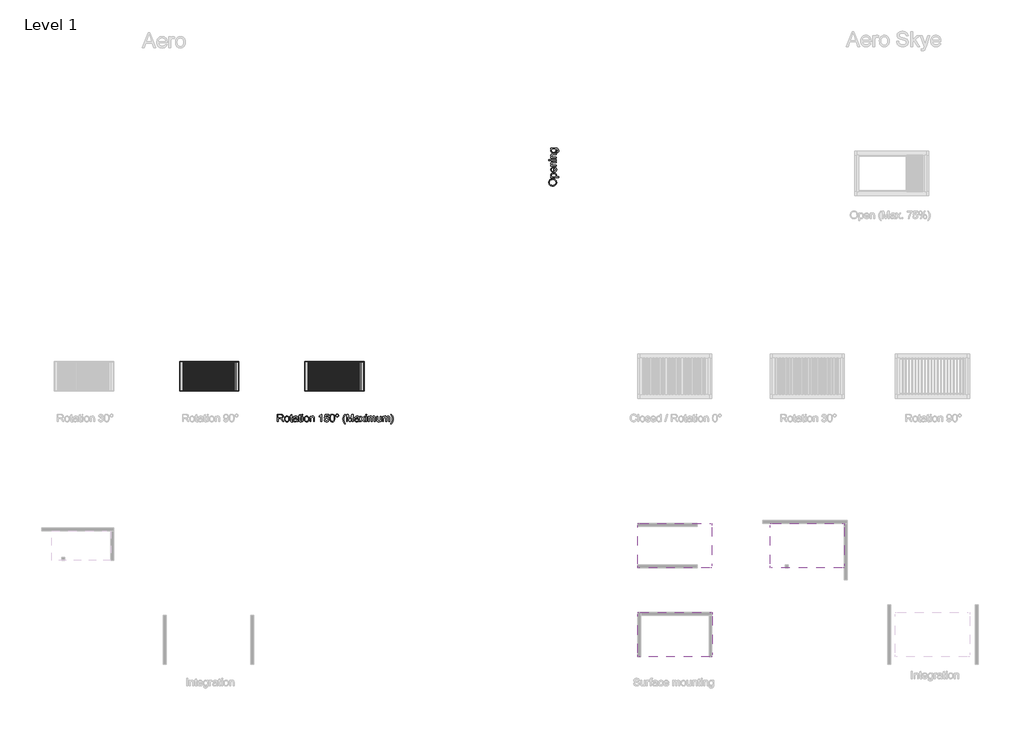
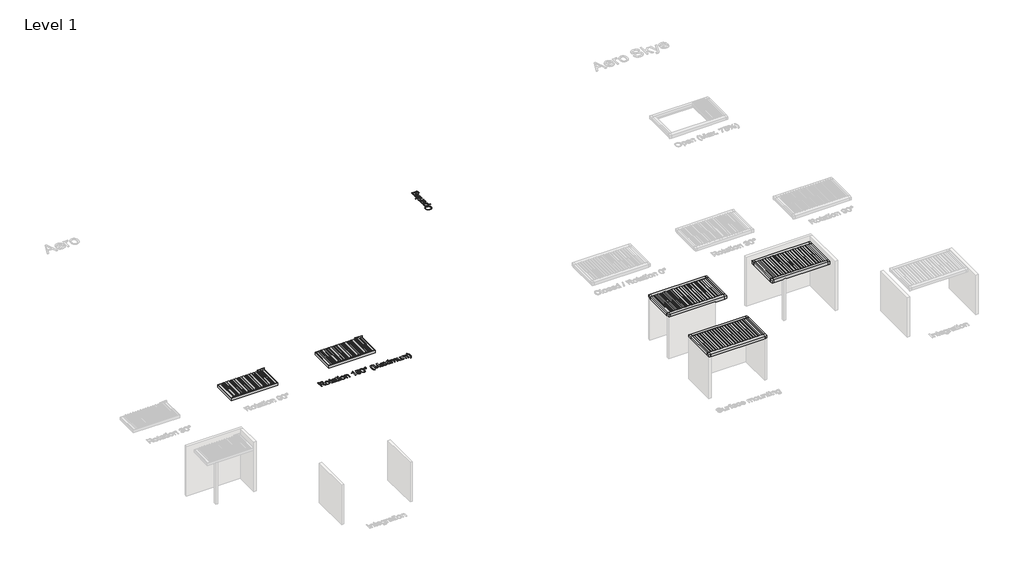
# One storey, part 9 of 12: 7 proxies.
"""IFC4 building model written with IfcOpenShell, lengths in millimetres."""

from ifc_helpers import new_model, si_unit, origin, origin_with_axes, place, context, project, spatial, polyline, outline, extrude, transform, mapped, element, save
from components import generic_models_456f33a1, generic_models_02a216a0

model = new_model("IFC4")

# Units and contexts
model_context = context("Model", 3, world=origin())
ifc_project = project(units=[si_unit("LENGTHUNIT", "METRE", prefix="MILLI")], contexts=[model_context])

# Site, building, storey
site = spatial("IfcSite", under=ifc_project)
building = spatial("IfcBuilding", under=site)
storey = spatial("IfcBuildingStorey", under=building, Name="Level 1", Elevation=0.0)

# Proxies
placement = place(None, origin())
generic_models_shape = generic_models_456f33a1(model_context)
element("IfcBuildingElementProxy", 1, Name="Renson_Aero_Patio covers : Aero - Single", ObjectType="Renson_Aero_Patio covers : Aero - Single", at=placement, inside=storey, context=model_context, shape_type="MappedRepresentation", body=[
    mapped(generic_models_shape, transform((7543.8510454, 17701.5921629, 0.0), x_axis=(1.0, 0.0, 0.0), y_axis=(0.0, 1.0, 0.0), z_axis=(0.0, 0.0, 1.0))),
])
element("IfcBuildingElementProxy", 2, Name="Renson_Aero_Patio covers : Aero - Single", ObjectType="Renson_Aero_Patio covers : Aero - Single", at=placement, inside=storey, context=model_context, shape_type="MappedRepresentation", body=[
    mapped(generic_models_shape, transform((15964.1940396, 17701.5921629, 0.0), x_axis=(1.0, 0.0, 0.0), y_axis=(0.0, 1.0, 0.0), z_axis=(0.0, 0.0, 1.0))),
])
generic_models_2_shape = generic_models_02a216a0(model_context)
element("IfcBuildingElementProxy", 3, Name="Renson_Aero_Skye_Patio covers : Aero Skye - Single", ObjectType="Renson_Aero_Skye_Patio covers : Aero Skye - Single", at=placement, inside=storey, context=model_context, shape_type="MappedRepresentation", body=[
    mapped(generic_models_2_shape, transform((38903.1736148, 301.5921629, 4000.0), x_axis=(1.0, 0.0, 0.0), y_axis=(0.0, 1.0, 0.0), z_axis=(0.0, 0.0, 1.0))),
])
element("IfcBuildingElementProxy", 4, Name="Renson_Aero_Skye_Patio covers : Aero Skye - Single", ObjectType="Renson_Aero_Skye_Patio covers : Aero Skye - Single", at=placement, inside=storey, context=model_context, shape_type="MappedRepresentation", body=[
    mapped(generic_models_2_shape, transform((38893.1736148, 6301.5921629, 4000.0), x_axis=(1.0, 0.0, 0.0), y_axis=(0.0, 1.0, 0.0), z_axis=(0.0, 0.0, 1.0))),
])
element("IfcBuildingElementProxy", 5, Name="Renson_Aero_Skye_Patio covers : Aero Skye - Single", ObjectType="Renson_Aero_Skye_Patio covers : Aero Skye - Single", at=placement, inside=storey, context=model_context, shape_type="MappedRepresentation", body=[
    mapped(generic_models_2_shape, transform((47813.516609, 6301.5921629, 4000.0), x_axis=(1.0, 0.0, 0.0), y_axis=(0.0, 1.0, 0.0), z_axis=(0.0, 0.0, 1.0))),
])
element("IfcBuildingElementProxy", 6, Name="500mm Arial", ObjectType="500mm Arial", at=placement, inside=storey, context=model_context, shape_type="SweptSolid", body=[
    extrude(outline(polyline([(12132.9840415, 14645.8072853), (12132.9840415, 15148.088836), (12349.421282, 15148.088836), (12407.5926225, 15144.701256), (12449.9143804, 15134.5385159), (12480.8471248, 15115.7765341), (12504.851425, 15086.5912292), (12520.2564835, 15050.4008379), (12525.3915031, 15010.6235972), (12523.2646853, 14984.8258723), (12516.8842319, 14961.1434688), (12506.250143, 14939.5763869), (12491.3624185, 14920.1246264), (12472.0294532, 14903.4089882), (12448.059642, 14890.0502733), (12419.4529848, 14880.0484815), (12386.2094816, 14873.403613), (12406.9028438, 14859.8839496), (12421.8940351, 14846.5482273), (12472.7843778, 14781.9236235), (12556.5388453, 14645.8072853), (12483.5755829, 14645.8072853), (12418.2152151, 14749.9178899), (12371.0036924, 14818.8344504), (12353.4526556, 14838.9300043), (12337.8329992, 14851.3920069), (12307.9732439, 14863.3481718), (12271.5529264, 14865.5554637), (12195.7692354, 14865.5554637), (12195.7692354, 14645.8072853), (12132.9840415, 14645.8072853)]), holes=[polyline([(12195.7692354, 14928.3406576), (12336.3001575, 14928.3406576), (12376.6598781, 14930.563278), (12407.9758329, 14937.2311391), (12431.5509375, 14948.7887652), (12448.6881071, 14965.6806801), (12459.1267587, 14986.1134592), (12462.6063092, 15008.2936779), (12460.9470081, 15024.3501941), (12455.9691049, 15038.919854), (12447.6725995, 15052.0026574), (12436.0574919, 15063.5986045), (12420.8555349, 15073.0945585), (12401.7984811, 15079.8773828), (12352.1190833, 15085.3036422), (12195.7692354, 15085.3036422), (12195.7692354, 14928.3406576)])]), origin_with_axes(), (0.0, 0.0, 1.0), 5.0),
    extrude(outline(polyline([(12611.7211446, 14830.2387922), (12615.1163888, 14878.0098021), (12625.3021216, 14919.1742645), (12642.2783428, 14953.7321795), (12666.0450526, 14981.6835469), (12689.9727107, 14999.5488163), (12716.3835722, 15012.309723), (12745.2776373, 15019.966267), (12776.6549058, 15022.5184484), (12811.2932949, 15019.4106119), (12842.6130818, 15010.0871026), (12870.6142666, 14994.5479204), (12895.2968492, 14972.7930653), (12915.4422206, 14945.5583014), (12929.8317715, 14913.5793925), (12938.4655021, 14876.8563388), (12941.3434123, 14835.3891401), (12936.254378, 14771.9601528), (12929.8930852, 14745.9248374), (12920.9872752, 14723.6756409), (12909.6480791, 14704.4576388), (12895.986628, 14687.5159065), (12880.0029217, 14672.850444), (12861.6969603, 14660.4612514), (12820.9693578, 14643.5846649), (12776.6549058, 14637.9591361), (12741.5106789, 14641.0554762), (12709.8996521, 14650.3444966), (12681.8218252, 14665.8261972), (12657.2771983, 14687.5005781), (12637.3464248, 14714.9997572), (12623.110158, 14747.9558526), (12614.568398, 14786.3688643), (12611.7211446, 14830.2387922)]), holes=[polyline([(12674.5063384, 14830.3614195), (12676.3227558, 14799.9076881), (12681.7720078, 14773.5389797), (12690.8540946, 14751.2552943), (12703.5690161, 14733.0566318), (12719.0353883, 14718.9199997), (12736.3718273, 14708.8224054), (12755.5783331, 14702.7638488), (12776.6549058, 14700.7443299), (12797.6241795, 14702.7753451), (12816.7540432, 14708.8683906), (12834.044497, 14719.0234665), (12849.4955408, 14733.2405728), (12862.2104623, 14751.6193442), (12871.292549, 14774.2594153), (12876.7418011, 14801.1607862), (12878.5582184, 14832.3234568), (12876.7303048, 14861.811498), (12871.2465638, 14887.4904277), (12862.1069955, 14909.3602459), (12849.3115998, 14927.4209526), (12833.8030745, 14941.5575847), (12816.524117, 14951.655179), (12797.4747274, 14957.7137356), (12776.6549058, 14959.7332545), (12755.5783331, 14957.7213998), (12736.3718273, 14951.6858359), (12719.0353883, 14941.6265626), (12703.5690161, 14927.5435799), (12690.8540946, 14909.3985669), (12681.7720078, 14887.1532025), (12676.3227558, 14860.8074867), (12674.5063384, 14830.3614195)])]), origin_with_axes(), (0.0, 0.0, 1.0), 5.0),
    extrude(outline(polyline([(13145.3952923, 14698.1691559), (13153.2434415, 14643.9678753), (13106.2771734, 14637.9591361), (13076.1415067, 14640.5649669), (13053.6700481, 14648.3824593), (13037.7898087, 14660.4305946), (13027.4277991, 14675.7283542), (13021.7256282, 14702.0012601), (13019.8249046, 14746.974834), (13019.8249046, 14951.8851053), (12972.7360092, 14951.8851053), (12972.7360092, 15014.6702991), (13019.8249046, 15014.6702991), (13019.8249046, 15104.3108786), (13082.6100984, 15141.2217055), (13082.6100984, 15014.6702991), (13145.3952923, 15014.6702991), (13145.3952923, 14951.8851053), (13082.6100984, 14951.8851053), (13082.6100984, 14748.8142439), (13085.9210364, 14716.4406284), (13096.6509279, 14704.9749728), (13118.0493973, 14700.7443299), (13145.3952923, 14698.1691559)])), origin_with_axes(), (0.0, 0.0, 1.0), 5.0),
    extrude(outline(polyline([(13443.624963, 14692.8961807), (13413.627252, 14667.1750978), (13382.7404928, 14650.3444966), (13350.2595783, 14641.0554762), (13315.4794014, 14637.9591361), (13287.5242018, 14639.8215387), (13263.0102318, 14645.4087465), (13241.9374913, 14654.7207595), (13224.3059802, 14667.7575777), (13210.383946, 14683.6914666), (13200.4396358, 14701.6946917), (13194.4730497, 14721.7672531), (13192.4841876, 14743.9091507), (13195.4885573, 14769.9368018), (13204.5016662, 14793.57322), (13218.4045399, 14813.8067298), (13236.0782041, 14829.6256555), (13256.8482084, 14841.5818204), (13280.0401025, 14850.2270473), (13334.3640105, 14859.6693518), (13398.5594186, 14869.6021657), (13443.257081, 14881.2517622), (13443.624963, 14895.231278), (13439.3023496, 14923.2516233), (13426.3345092, 14941.5844094), (13413.25937, 14949.5245291), (13397.3331453, 14955.1960432), (13356.9274395, 14959.7332545), (13319.5261033, 14956.7135565), (13293.4064817, 14947.6544623), (13275.5948617, 14930.9005031), (13263.1175307, 14904.7962099), (13200.3323369, 14912.6443591), (13211.230841, 14946.980012), (13227.4942909, 14973.958025), (13250.6401997, 14994.5900735), (13282.1860808, 15009.8878332), (13320.7677051, 15019.3607946), (13365.0208434, 15022.5184484), (13407.4652286, 15019.7286766), (13441.1111027, 15011.3593612), (13466.479632, 14998.7747312), (13484.0919825, 14983.3390159), (13495.7722358, 14964.2551374), (13503.3444736, 14940.7260181), (13506.4101569, 14885.7889735), (13506.4101569, 14807.6753632), (13509.5984675, 14698.5983516), (13514.3196198, 14671.635667), (13522.1064553, 14645.8072853), (13459.3212615, 14645.8072853), (13449.2658203, 14667.6349503), (13443.624963, 14692.8961807)]), holes=[polyline([(13443.624963, 14818.4665684), (13401.4411609, 14808.0125883), (13342.334787, 14799.2140773), (13288.3174474, 14789.0360087), (13274.2612895, 14782.0769077), (13263.8532947, 14772.481319), (13257.4153598, 14760.9850066), (13255.2693815, 14748.3237346), (13259.9445485, 14729.6537234), (13273.9700496, 14714.3559637), (13297.0393164, 14704.1472384), (13328.8457805, 14700.7443299), (13362.5682968, 14704.4997919), (13392.3667384, 14715.766178), (13416.5243227, 14732.3668531), (13433.3242672, 14752.1251819), (13440.7738776, 14772.481319), (13443.257081, 14800.6856053), (13443.624963, 14818.4665684)])]), origin_with_axes(), (0.0, 0.0, 1.0), 5.0),
    extrude(outline(polyline([(13726.1583353, 14698.1691559), (13734.0064845, 14643.9678753), (13687.0402165, 14637.9591361), (13656.9045497, 14640.5649669), (13634.4330912, 14648.3824593), (13618.5528517, 14660.4305946), (13608.1908422, 14675.7283542), (13602.4886713, 14702.0012601), (13600.5879476, 14746.974834), (13600.5879476, 14951.8851053), (13553.4990522, 14951.8851053), (13553.4990522, 15014.6702991), (13600.5879476, 15014.6702991), (13600.5879476, 15104.3108786), (13663.3731415, 15141.2217055), (13663.3731415, 15014.6702991), (13726.1583353, 15014.6702991), (13726.1583353, 14951.8851053), (13663.3731415, 14951.8851053), (13663.3731415, 14748.8142439), (13666.6840794, 14716.4406284), (13677.413971, 14704.9749728), (13698.8124403, 14700.7443299), (13726.1583353, 14698.1691559)])), origin_with_axes(), (0.0, 0.0, 1.0), 5.0),
    extrude(outline(polyline([(13788.9435292, 15085.3036422), (13788.9435292, 15148.088836), (13851.728723, 15148.088836), (13851.728723, 15085.3036422), (13788.9435292, 15085.3036422)])), origin_with_axes(), (0.0, 0.0, 1.0), 5.0),
    extrude(outline(polyline([(13788.9435292, 14645.8072853), (13788.9435292, 15014.6702991), (13851.728723, 15014.6702991), (13851.728723, 14645.8072853), (13788.9435292, 14645.8072853)])), origin_with_axes(), (0.0, 0.0, 1.0), 5.0),
    extrude(outline(polyline([(13930.2102153, 14830.2387922), (13933.6054596, 14878.0098021), (13943.7911923, 14919.1742645), (13960.7674135, 14953.7321795), (13984.5341233, 14981.6835469), (14008.4617814, 14999.5488163), (14034.8726429, 15012.309723), (14063.766708, 15019.966267), (14095.1439765, 15022.5184484), (14129.7823656, 15019.4106119), (14161.1021525, 15010.0871026), (14189.1033373, 14994.5479204), (14213.7859199, 14972.7930653), (14233.9312913, 14945.5583014), (14248.3208422, 14913.5793925), (14256.9545728, 14876.8563388), (14259.832483, 14835.3891401), (14254.7434487, 14771.9601528), (14248.3821559, 14745.9248374), (14239.4763459, 14723.6756409), (14228.1371498, 14704.4576388), (14214.4756987, 14687.5159065), (14198.4919924, 14672.850444), (14180.186031, 14660.4612514), (14139.4584285, 14643.5846649), (14095.1439765, 14637.9591361), (14059.9997496, 14641.0554762), (14028.3887228, 14650.3444966), (14000.3108959, 14665.8261972), (13975.766269, 14687.5005781), (13955.8354955, 14714.9997572), (13941.5992287, 14747.9558526), (13933.0574687, 14786.3688643), (13930.2102153, 14830.2387922)]), holes=[polyline([(13992.9954092, 14830.3614195), (13994.8118265, 14799.9076881), (14000.2610786, 14773.5389797), (14009.3431653, 14751.2552943), (14022.0580868, 14733.0566318), (14037.524459, 14718.9199997), (14054.860898, 14708.8224054), (14074.0674038, 14702.7638488), (14095.1439765, 14700.7443299), (14116.1132502, 14702.7753451), (14135.243114, 14708.8683906), (14152.5335677, 14719.0234665), (14167.9846115, 14733.2405728), (14180.699533, 14751.6193442), (14189.7816197, 14774.2594153), (14195.2308718, 14801.1607862), (14197.0472891, 14832.3234568), (14195.2193755, 14861.811498), (14189.7356345, 14887.4904277), (14180.5960662, 14909.3602459), (14167.8006705, 14927.4209526), (14152.2921452, 14941.5575847), (14135.0131877, 14951.655179), (14115.9637981, 14957.7137356), (14095.1439765, 14959.7332545), (14074.0674038, 14957.7213998), (14054.860898, 14951.6858359), (14037.524459, 14941.6265626), (14022.0580868, 14927.5435799), (14009.3431653, 14909.3985669), (14000.2610786, 14887.1532025), (13994.8118265, 14860.8074867), (13992.9954092, 14830.3614195)])]), origin_with_axes(), (0.0, 0.0, 1.0), 5.0),
    extrude(outline(polyline([(14330.4658261, 14645.8072853), (14330.4658261, 15014.6702991), (14393.2510199, 15014.6702991), (14393.2510199, 14963.1668198), (14415.0633565, 14989.1331573), (14441.2596203, 15007.6805412), (14471.8398111, 15018.8089716), (14506.8039291, 15022.5184484), (14537.7520019, 15019.5294071), (14566.094244, 15010.5622835), (14589.7306622, 14996.7360519), (14606.5612634, 14979.1696866), (14617.9809337, 14957.9091729), (14625.3845589, 14933.0004962), (14628.6954968, 14872.299967), (14628.6954968, 14645.8072853), (14565.910303, 14645.8072853), (14565.910303, 14863.8386811), (14564.1015498, 14896.3042672), (14558.6752904, 14919.3888624), (14548.6658345, 14935.9282237), (14533.1074917, 14948.7581083), (14513.1652219, 14956.989468), (14490.0039846, 14959.7332545), (14470.9392667, 14958.1927487), (14453.2311135, 14953.5712311), (14436.8795253, 14945.8687018), (14421.8845019, 14935.0851608), (14409.3573535, 14919.9943348), (14400.4093904, 14899.3699505), (14395.0406125, 14873.2120078), (14393.2510199, 14841.5205067), (14393.2510199, 14645.8072853), (14330.4658261, 14645.8072853)])), origin_with_axes(), (0.0, 0.0, 1.0), 5.0),
    extrude(outline(polyline([(15130.9770476, 14645.8072853), (15068.1918537, 14645.8072853), (15068.1918537, 15037.2337282), (15041.9802616, 15016.0345282), (15008.7175978, 14994.865985), (14942.621466, 14963.1668198), (14942.621466, 15022.5184484), (14991.9329818, 15049.3431772), (15034.6532785, 15081.2569402), (15068.3298095, 15115.1940543), (15090.5100281, 15148.088836), (15130.9770476, 15148.088836), (15130.9770476, 14645.8072853)])), origin_with_axes(), (0.0, 0.0, 1.0), 5.0),
    extrude(outline(polyline([(15280.0918829, 14779.2258222), (15342.8770768, 14787.0739714), (15354.404046, 14749.3813953), (15363.386498, 14734.5473203), (15374.5149284, 14722.388054), (15387.7663444, 14712.9189247), (15403.1177535, 14706.1552609), (15440.1205508, 14700.7443299), (15464.0328805, 14702.625893), (15485.1247816, 14708.2705824), (15503.396254, 14717.678398), (15518.8472978, 14730.8493398), (15531.1330236, 14747.1319502), (15539.908542, 14765.8747715), (15545.1738531, 14787.0778035), (15546.9289568, 14810.7410465), (15545.2849841, 14833.1052061), (15540.3530661, 14852.9861622), (15532.1332028, 14870.3839149), (15520.6253941, 14885.2984641), (15505.7913191, 14897.2622932), (15487.5926566, 14905.8078854), (15466.0294068, 14910.9352407), (15441.1015695, 14912.6443591), (15410.644006, 14909.915901), (15385.9805839, 14901.7305266), (15366.2835687, 14889.1918819), (15350.725226, 14873.403613), (15287.9400322, 14881.2517622), (15342.8770768, 15140.2406868), (15586.1697029, 15140.2406868), (15586.1697029, 15077.455493), (15393.6447921, 15077.455493), (15366.7894065, 14939.1318628), (15388.9466325, 14955.0121022), (15411.6403531, 14966.3551304), (15434.8705682, 14973.1609473), (15458.6372779, 14975.429553), (15489.2136367, 14972.6167885), (15517.2991278, 14964.1784953), (15542.8937511, 14950.1146732), (15565.9975069, 14930.4253222), (15585.1235385, 14906.3137231), (15598.7849897, 14878.9831566), (15606.9818604, 14848.4336225), (15609.7141506, 14814.6651211), (15607.2539398, 14782.1382213), (15599.8733073, 14751.8799272), (15587.572253, 14723.8902388), (15570.3507771, 14698.1691559), (15544.2618123, 14671.8272722), (15513.8195772, 14653.011641), (15479.0240718, 14641.7222623), (15439.8752962, 14637.9591361), (15407.4748559, 14640.3771938), (15378.2090767, 14647.6313668), (15352.0779588, 14659.7216553), (15329.081502, 14676.6480592), (15309.9478061, 14697.5675156), (15295.404971, 14721.6369615), (15285.4529966, 14748.8563971), (15280.0918829, 14779.2258222)])), origin_with_axes(), (0.0, 0.0, 1.0), 5.0),
    extrude(outline(polyline([(15664.6511952, 14892.9013587), (15669.2650486, 14973.2989031), (15683.1066087, 15037.4176692), (15693.4532898, 15063.617765), (15706.0379197, 15086.2386756), (15720.8604984, 15105.280401), (15737.9210259, 15120.7429411), (15757.2769838, 15132.7067701), (15778.9858537, 15141.2523623), (15803.0476354, 15146.3797176), (15829.4623291, 15148.088836), (15868.1512522, 15144.0421341), (15902.7934734, 15131.9020282), (15931.7641806, 15112.1436994), (15953.4385615, 15085.2423285), (15969.8093102, 15051.4278418), (15982.8691211, 15010.9301655), (15991.4223775, 14959.5033283), (15994.2734629, 14892.9013587), (15989.7055948, 14812.9636668), (15976.0019905, 14748.9981849), (15965.7357836, 14722.7865928), (15953.2086352, 14700.1311932), (15938.4205454, 14681.0319863), (15921.3715142, 14665.488972), (15901.9925637, 14653.4446688), (15880.214716, 14644.8415951), (15856.0379711, 14639.6797508), (15829.4623291, 14637.9591361), (15794.8814215, 14640.9481773), (15764.2245886, 14649.9153009), (15737.4918303, 14664.860507), (15714.6831466, 14685.7837954), (15692.7941679, 14723.6066631), (15677.1591831, 14770.7338795), (15667.7781922, 14827.1654447), (15664.6511952, 14892.9013587)]), holes=[polyline([(15727.4363891, 14893.023986), (15729.2757991, 14838.4433271), (15734.794029, 14794.2629988), (15743.9910789, 14760.483001), (15756.8669487, 14737.1033338), (15772.4406198, 14721.1962696), (15789.7310736, 14709.8340809), (15808.73831, 14703.0167676), (15829.4623291, 14700.7443299), (15850.1863481, 14703.0244319), (15869.1935846, 14709.8647377), (15886.4840383, 14721.2652474), (15902.0577095, 14737.2259611), (15914.9335793, 14760.6439493), (15924.1306292, 14794.4162829), (15929.6488591, 14838.5429618), (15931.4882691, 14893.023986), (15929.7101728, 14946.1599417), (15924.3758838, 14989.5623529), (15915.4854023, 15023.2312197), (15903.0387281, 15047.166542), (15887.7256401, 15063.8515233), (15870.2359169, 15075.7693672), (15850.5695585, 15082.9200734), (15828.7265651, 15085.3036422), (15808.1098449, 15083.2036491), (15789.4245053, 15076.90367), (15772.6705461, 15066.4037047), (15757.8479673, 15051.7037533), (15744.5429019, 15025.6454453), (15735.0392836, 14990.5127148), (15729.3371127, 14946.3055617), (15727.4363891, 14893.023986)])]), origin_with_axes(), (0.0, 0.0, 1.0), 5.0),
    extrude(outline(polyline([(16064.906806, 15061.8818218), (16066.6350849, 15080.7127815), (16071.8199218, 15098.0875415), (16080.4613166, 15114.006102), (16092.5592693, 15128.468463), (16107.0791118, 15140.4859415), (16122.986176, 15149.0698547), (16140.2804619, 15154.2202026), (16158.9619694, 15155.9369853), (16177.900228, 15154.2202026), (16195.3516301, 15149.0698547), (16211.3161759, 15140.4859415), (16225.7938652, 15128.468463), (16237.8113437, 15114.006102), (16246.3952569, 15098.0875415), (16251.5456049, 15080.7127815), (16253.2623875, 15061.8818218), (16251.5341086, 15043.0930154), (16246.3492717, 15025.7220874), (16237.7078769, 15009.769038), (16225.6099242, 14995.233867), (16211.0747533, 14983.1359143), (16195.1217039, 14974.4945196), (16177.7507759, 14969.3096827), (16158.9619694, 14967.5814037), (16140.2804619, 14969.2981864), (16122.986176, 14974.4485343), (16107.0791118, 14983.0324475), (16092.5592693, 14995.049926), (16080.4613166, 15009.5276154), (16071.8199218, 15025.4921611), (16066.6350849, 15042.9435633), (16064.906806, 15061.8818218)]), holes=[polyline([(16104.1475521, 15061.7591945), (16108.1789257, 15040.6366366), (16120.2730463, 15022.8863303), (16138.0693378, 15010.838195), (16159.2072241, 15006.8221499), (16180.1611694, 15010.838195), (16197.8961472, 15022.8863303), (16209.9902678, 15040.6366366), (16214.0216414, 15061.7591945), (16209.9902678, 15082.8817524), (16197.8961472, 15100.6320587), (16180.1611694, 15112.680194), (16159.2072241, 15116.6962391), (16138.0693378, 15112.680194), (16120.2730463, 15100.6320587), (16108.1789257, 15082.8817524), (16104.1475521, 15061.7591945)])]), origin_with_axes(), (0.0, 0.0, 1.0), 5.0),
    extrude(outline(polyline([(16669.2142967, 14504.5405991), (16643.8687601, 14537.3357462), (16620.5619029, 14572.8133661), (16580.0642266, 14651.8160245), (16564.1303377, 14694.3830371), (16552.7489884, 14737.7164704), (16545.9201789, 14781.8163246), (16543.643909, 14826.6825996), (16545.3453633, 14866.1149509), (16550.449726, 14904.7042394), (16558.9569971, 14942.4504649), (16570.8671767, 14979.3536276), (16588.9700365, 15021.6753854), (16611.3955098, 15063.9051728), (16638.1435966, 15106.0429897), (16669.2142967, 15148.088836), (16716.3031921, 15148.088836), (16657.5647002, 15048.63807), (16637.5151315, 15001.4265473), (16622.2480287, 14952.2529873), (16610.3838343, 14889.4371366), (16606.4291029, 14826.3147176), (16608.1458855, 14786.0661281), (16613.2962335, 14745.8252027), (16621.8801467, 14705.5919416), (16633.8976252, 14665.3663447), (16668.2332781, 14584.9381435), (16716.3031921, 14504.5405991), (16669.2142967, 14504.5405991)])), origin_with_axes(), (0.0, 0.0, 1.0), 5.0),
    extrude(outline(polyline([(16786.9365352, 14645.8072853), (16786.9365352, 15148.088836), (16894.9712144, 15148.088836), (16997.7329184, 14794.0637293), (17018.4569375, 14720.1194483), (17040.8977392, 14800.1950959), (17141.9426605, 15148.088836), (17249.9773398, 15148.088836), (17249.9773398, 14645.8072853), (17187.1921459, 14645.8072853), (17187.1921459, 15085.3036422), (17061.0086216, 14645.8072853), (16975.9052534, 14645.8072853), (16849.721729, 15085.3036422), (16849.721729, 14645.8072853), (16786.9365352, 14645.8072853)])), origin_with_axes(), (0.0, 0.0, 1.0), 5.0),
    extrude(outline(polyline([(17587.4477567, 14692.8961807), (17557.4500457, 14667.1750978), (17526.5632865, 14650.3444966), (17494.082372, 14641.0554762), (17459.302195, 14637.9591361), (17431.3469955, 14639.8215387), (17406.8330255, 14645.4087465), (17385.7602849, 14654.7207595), (17368.1287739, 14667.7575777), (17354.2067396, 14683.6914666), (17344.2624295, 14701.6946917), (17338.2958434, 14721.7672531), (17336.3069813, 14743.9091507), (17339.3113509, 14769.9368018), (17348.3244598, 14793.57322), (17362.2273336, 14813.8067298), (17379.9009977, 14829.6256555), (17400.6710021, 14841.5818204), (17423.8628962, 14850.2270473), (17478.1868041, 14859.6693518), (17542.3822123, 14869.6021657), (17587.0798747, 14881.2517622), (17587.4477567, 14895.231278), (17583.1251433, 14923.2516233), (17570.1573029, 14941.5844094), (17557.0821637, 14949.5245291), (17541.155939, 14955.1960432), (17500.7502332, 14959.7332545), (17463.348897, 14956.7135565), (17437.2292753, 14947.6544623), (17419.4176554, 14930.9005031), (17406.9403244, 14904.7962099), (17344.1551306, 14912.6443591), (17355.0536347, 14946.980012), (17371.3170845, 14973.958025), (17394.4629934, 14994.5900735), (17426.0088745, 15009.8878332), (17464.5904987, 15019.3607946), (17508.8436371, 15022.5184484), (17551.2880223, 15019.7286766), (17584.9338964, 15011.3593612), (17610.3024256, 14998.7747312), (17627.9147762, 14983.3390159), (17639.5950295, 14964.2551374), (17647.1672672, 14940.7260181), (17650.2329505, 14885.7889735), (17650.2329505, 14807.6753632), (17653.4212612, 14698.5983516), (17658.1424134, 14671.635667), (17665.929249, 14645.8072853), (17603.1440552, 14645.8072853), (17593.088614, 14667.6349503), (17587.4477567, 14692.8961807)]), holes=[polyline([(17587.4477567, 14818.4665684), (17545.2639546, 14808.0125883), (17486.1575807, 14799.2140773), (17432.1402411, 14789.0360087), (17418.0840832, 14782.0769077), (17407.6760884, 14772.481319), (17401.2381535, 14760.9850066), (17399.0921752, 14748.3237346), (17403.7673422, 14729.6537234), (17417.7928433, 14714.3559637), (17440.86211, 14704.1472384), (17472.6685742, 14700.7443299), (17506.3910904, 14704.4997919), (17536.189532, 14715.766178), (17560.3471164, 14732.3668531), (17577.1470608, 14752.1251819), (17584.5966712, 14772.481319), (17587.0798747, 14800.6856053), (17587.4477567, 14818.4665684)])]), origin_with_axes(), (0.0, 0.0, 1.0), 5.0),
    extrude(outline(polyline([(17697.3218459, 14645.8072853), (17831.4761468, 14831.2198109), (17705.1699952, 15014.6702991), (17780.7084315, 15014.6702991), (17841.6542154, 14926.3786203), (17870.1037563, 14884.6853275), (17894.75185, 14918.7757257), (17964.1589198, 15014.6702991), (18039.6973561, 15014.6702991), (17907.0145832, 14831.2198109), (18034.7922628, 14645.8072853), (17959.2538265, 14645.8072853), (17882.3664895, 14757.2755298), (17868.2643463, 14777.6316669), (17772.8602823, 14645.8072853), (17697.3218459, 14645.8072853)])), origin_with_axes(), (0.0, 0.0, 1.0), 5.0),
    extrude(outline(polyline([(18089.7293074, 14645.8072853), (18089.7293074, 15014.6702991), (18152.5145013, 15014.6702991), (18152.5145013, 14645.8072853), (18089.7293074, 14645.8072853)])), origin_with_axes(), (0.0, 0.0, 1.0), 5.0),
    extrude(outline(polyline([(18089.7293074, 15085.3036422), (18089.7293074, 15148.088836), (18152.5145013, 15148.088836), (18152.5145013, 15085.3036422), (18089.7293074, 15085.3036422)])), origin_with_axes(), (0.0, 0.0, 1.0), 5.0),
    extrude(outline(polyline([(18246.6922921, 14645.8072853), (18246.6922921, 15014.6702991), (18309.4774859, 15014.6702991), (18309.4774859, 14953.9697699), (18328.362095, 14981.8521595), (18352.6423067, 15003.6951529), (18381.4903865, 15017.8126245), (18414.0785999, 15022.5184484), (18448.9967326, 15017.720654), (18476.986421, 15003.3272709), (18497.8943811, 14980.288661), (18511.5673286, 14949.555186), (18534.4526544, 14981.4766133), (18560.5569476, 15004.2776328), (18589.8802083, 15017.9582445), (18622.4224365, 15022.5184484), (18647.5572074, 15020.6215568), (18669.6186308, 15014.9308822), (18688.6067067, 15005.4464245), (18704.521435, 14992.1681837), (18717.1022329, 14974.9428757), (18726.088517, 14953.6172163), (18731.4802875, 14928.1912055), (18733.2775443, 14898.6648433), (18733.2775443, 14645.8072853), (18670.4923505, 14645.8072853), (18670.4923505, 14871.6868303), (18669.0361509, 14903.0027852), (18664.6675522, 14924.1100146), (18656.4821778, 14938.5647114), (18643.5756512, 14949.923068), (18626.9749761, 14957.2807079), (18607.7071567, 14959.7332545), (18589.9146972, 14958.1620918), (18573.6934005, 14953.4486038), (18559.0432665, 14945.5927903), (18545.9642951, 14934.5946515), (18535.2075789, 14920.1322906), (18527.5242101, 14901.8838108), (18522.9141889, 14879.8492121), (18521.3775151, 14854.0284946), (18521.3775151, 14645.8072853), (18458.5923213, 14645.8072853), (18458.5923213, 14878.6765882), (18454.9594866, 14914.1772008), (18444.0609825, 14939.4997448), (18435.6341855, 14948.3519053), (18424.8851335, 14954.6748771), (18396.4202641, 14959.7332545), (18372.2320229, 14956.3610029), (18349.9445054, 14946.244248), (18331.5504056, 14929.6282446), (18319.0424178, 14906.7582472), (18311.8687189, 14875.0284251), (18309.4774859, 14831.8329475), (18309.4774859, 14645.8072853), (18246.6922921, 14645.8072853)])), origin_with_axes(), (0.0, 0.0, 1.0), 5.0),
    extrude(outline(polyline([(19062.899812, 14645.8072853), (19062.899812, 14709.2056158), (19040.1830988, 14678.0352809), (19013.726252, 14655.770756), (18983.5292716, 14642.412041), (18949.5921575, 14637.9591361), (18919.0119667, 14641.086133), (18890.5470973, 14650.4671239), (18866.6654244, 14664.569267), (18849.8348231, 14681.8597208), (18838.5071234, 14702.8596514), (18831.1341551, 14728.0902249), (18827.4553351, 14786.4608348), (18827.4553351, 15014.6702991), (18890.2405289, 15014.6702991), (18890.2405289, 14816.0140217), (18894.0419762, 14752.0025546), (18903.1930409, 14730.6500704), (18918.8740109, 14714.4172774), (18940.042554, 14704.1625668), (18965.656338, 14700.7443299), (18992.7416499, 14704.2392089), (19018.0795223, 14714.7238457), (19038.9721539, 14731.2325503), (19052.7217435, 14752.7996322), (19060.3552949, 14782.3374907), (19062.899812, 14822.758525), (19062.899812, 15014.6702991), (19125.6850059, 15014.6702991), (19125.6850059, 14645.8072853), (19062.899812, 14645.8072853)])), origin_with_axes(), (0.0, 0.0, 1.0), 5.0),
    extrude(outline(polyline([(19212.0146474, 14645.8072853), (19212.0146474, 15014.6702991), (19274.7998412, 15014.6702991), (19274.7998412, 14953.9697699), (19293.6844503, 14981.8521595), (19317.964662, 15003.6951529), (19346.8127418, 15017.8126245), (19379.4009552, 15022.5184484), (19414.3190879, 15017.720654), (19442.3087764, 15003.3272709), (19463.2167364, 14980.288661), (19476.8896839, 14949.555186), (19499.7750097, 14981.4766133), (19525.8793029, 15004.2776328), (19555.2025636, 15017.9582445), (19587.7447918, 15022.5184484), (19612.8795627, 15020.6215568), (19634.9409861, 15014.9308822), (19653.929062, 15005.4464245), (19669.8437904, 14992.1681837), (19682.4245882, 14974.9428757), (19691.4108724, 14953.6172163), (19696.8026429, 14928.1912055), (19698.5998997, 14898.6648433), (19698.5998997, 14645.8072853), (19635.8147058, 14645.8072853), (19635.8147058, 14871.6868303), (19634.3585063, 14903.0027852), (19629.9899076, 14924.1100146), (19621.8045332, 14938.5647114), (19608.8980065, 14949.923068), (19592.2973315, 14957.2807079), (19573.029512, 14959.7332545), (19555.2370526, 14958.1620918), (19539.0157559, 14953.4486038), (19524.3656218, 14945.5927903), (19511.2866505, 14934.5946515), (19500.5299342, 14920.1322906), (19492.8465655, 14901.8838108), (19488.2365442, 14879.8492121), (19486.6998705, 14854.0284946), (19486.6998705, 14645.8072853), (19423.9146766, 14645.8072853), (19423.9146766, 14878.6765882), (19420.2818419, 14914.1772008), (19409.3833378, 14939.4997448), (19400.9565409, 14948.3519053), (19390.2074888, 14954.6748771), (19361.7426194, 14959.7332545), (19337.5543782, 14956.3610029), (19315.2668607, 14946.244248), (19296.8727609, 14929.6282446), (19284.3647731, 14906.7582472), (19277.1910742, 14875.0284251), (19274.7998412, 14831.8329475), (19274.7998412, 14645.8072853), (19212.0146474, 14645.8072853)])), origin_with_axes(), (0.0, 0.0, 1.0), 5.0),
    extrude(outline(polyline([(19808.4739889, 14504.5405991), (19761.3850935, 14504.5405991), (19809.4550076, 14584.9381435), (19843.7906604, 14665.3663447), (19855.808139, 14705.5919416), (19864.3920522, 14745.8252027), (19869.5424001, 14786.0661281), (19871.2591828, 14826.3147176), (19867.3044513, 14888.9772841), (19855.440257, 14951.1493413), (19840.4490657, 15000.4148718), (19820.4914674, 15047.6570514), (19761.3850935, 15148.088836), (19808.4739889, 15148.088836), (19839.5446891, 15106.0429897), (19866.2927758, 15063.9051728), (19888.7182491, 15021.6753854), (19906.821109, 14979.3536276), (19918.7312885, 14942.4504649), (19927.2385597, 14904.7042394), (19932.3429224, 14866.1149509), (19934.0443766, 14826.6825996), (19931.7566104, 14781.8163246), (19924.893312, 14737.7164704), (19913.4544812, 14694.3830371), (19897.4401181, 14651.8160245), (19856.8964565, 14572.8133661), (19808.4739889, 14504.5405991)])), origin_with_axes(), (0.0, 0.0, 1.0), 5.0),
])
element("IfcBuildingElementProxy", 7, Name="500mm Arial", ObjectType="500mm Arial", at=placement, inside=storey, context=model_context, shape_type="SweptSolid", body=[
    extrude(outline(polyline([(30676.4070025, 30527.6849232), (30617.4922338, 30531.8695809), (30565.3372968, 30544.423554), (30519.9421914, 30565.3468425), (30481.3069177, 30594.6394463), (30450.4584796, 30630.5462619), (30428.4238809, 30671.3121855), (30415.2031217, 30716.9372171), (30410.796202, 30767.4213567), (30412.8655382, 30801.2128508), (30419.0735469, 30833.3028907), (30429.420228, 30863.6914764), (30443.9055816, 30892.3786078), (30462.0927477, 30918.5595431), (30483.5448665, 30941.4295405), (30508.2619381, 30960.9885999), (30536.2439623, 30977.2367213), (30566.85481, 30990.0052922), (30599.4583518, 30999.1257), (30634.0545878, 31004.5979447), (30670.6435179, 31006.4220263), (30707.7152931, 31004.5021421), (30742.7790458, 30998.7424896), (30775.8347759, 30989.1430688), (30806.8824835, 30975.7038797), (30835.1020982, 30958.7429869), (30859.6735498, 30938.578455), (30880.5968382, 30915.2102841), (30897.8719636, 30888.6384742), (30911.3916269, 30859.9091896), (30921.0485293, 30830.0685948), (30926.8426707, 30799.1166899), (30928.7740512, 30767.0534748), (30926.6395692, 30732.6718366), (30920.2361232, 30700.1602653), (30909.5637133, 30669.5187608), (30894.6223393, 30640.7473231), (30875.9906491, 30614.5970446), (30854.2472903, 30591.8190177), (30829.392263, 30572.4132425), (30801.4255672, 30556.3797188), (30771.4700093, 30543.8257458), (30740.6483959, 30534.8586221), (30708.960727, 30529.4783479), (30676.4070025, 30527.6849232)]), holes=[polyline([(30677.0201392, 30590.4701171), (30718.6444541, 30593.6086103), (30755.593602, 30603.0240902), (30787.8675828, 30618.7165565), (30815.4663967, 30640.6860094), (30837.5699732, 30667.391943), (30853.3582422, 30697.2938514), (30862.8312036, 30730.3917347), (30865.9888574, 30766.6855928), (30862.8005467, 30803.6002517), (30853.2356149, 30837.0890096), (30837.2940617, 30867.1518664), (30814.9758874, 30893.7888221), (30786.7945937, 30915.5973266), (30753.2636827, 30931.1748298), (30714.3831543, 30940.5213318), (30670.1530086, 30943.6368324), (30614.5721705, 30938.3025435), (30566.5329133, 30922.2996767), (30545.6441137, 30910.4009934), (30527.2461819, 30896.0420993), (30511.3391177, 30879.2229943), (30497.9229212, 30859.9436785), (30487.2735038, 30838.8019601), (30479.6667772, 30816.3956474), (30475.1027412, 30792.7247402), (30473.5813958, 30767.7892387), (30476.5129555, 30732.7561429), (30485.3076344, 30700.2522358), (30499.9654327, 30670.2775174), (30520.4863502, 30642.8319877), (30547.8590699, 30619.9236693), (30583.0722746, 30603.5605847), (30626.1259644, 30593.742734), (30677.0201392, 30590.4701171)])]), origin_with_axes(), (0.0, 0.0, 1.0), 5.0),
    extrude(outline(polyline([(31062.1925881, 31084.9035186), (30552.0628881, 31084.9035186), (30552.0628881, 31147.6887124), (30613.6218087, 31147.6887124), (30583.2562156, 31168.1674768), (30561.5665063, 31191.0987879), (30548.5526808, 31217.8315462), (30544.2147389, 31249.7146524), (30545.7322521, 31271.6112953), (30550.2847918, 31292.174366), (30557.872358, 31311.4038645), (30568.4949506, 31329.2997907), (30581.8766582, 31345.4712701), (30597.7415692, 31359.527428), (30636.9210017, 31381.2937794), (30683.1821626, 31394.4455607), (30733.6739664, 31398.8294878), (30787.3694093, 31393.8784093), (30835.3933381, 31379.0251737), (30856.6691801, 31368.0040423), (30875.3085346, 31354.744962), (30891.3114014, 31339.247933), (30904.6777805, 31321.5129551), (30922.7499835, 31282.8087036), (30928.7740512, 31242.1117579), (30924.7426777, 31213.2483497), (30912.6485571, 31187.4812816), (30894.3924131, 31165.4236903), (30871.8749693, 31147.6887124), (31062.1925881, 31147.6887124), (31062.1925881, 31084.9035186)]), holes=[polyline([(30739.437451, 31147.6887124), (30769.6957451, 31149.3863346), (30795.7233963, 31154.4792009), (30817.5204045, 31162.9673115), (30835.0867698, 31174.8506664), (30848.6064331, 31189.1559111), (30858.2633355, 31204.9096911), (30864.0574769, 31222.1120065), (30865.9888574, 31240.7628572), (30863.988499, 31259.6819552), (30857.987424, 31277.1985031), (30847.9856322, 31293.312501), (30833.9831238, 31308.0239487), (30815.7806292, 31320.2828497), (30793.1788791, 31329.0392076), (30766.1778735, 31334.2930224), (30734.7776124, 31336.044294), (30704.7799014, 31334.3351755), (30678.7982355, 31329.2078202), (30656.8326147, 31320.662228), (30638.883039, 31308.698399), (30624.93418, 31294.3586654), (30614.9707093, 31278.6853595), (30608.9926269, 31261.6784815), (30606.9999327, 31243.3380312), (30609.1190863, 31225.0550624), (30615.4765471, 31207.8527471), (30626.0723149, 31191.731085), (30640.90639, 31176.6900764), (30659.7795027, 31164.0019797), (30682.4923838, 31154.9390534), (30709.0450333, 31149.5012977), (30739.437451, 31147.6887124)])]), origin_with_axes(), (0.0, 0.0, 1.0), 5.0),
    extrude(outline(polyline([(30811.0518127, 31727.7159915), (30818.899962, 31789.274912), (30843.5557199, 31779.8364396), (30865.2837502, 31767.0946934), (30884.084053, 31751.0496735), (30899.9566282, 31731.7013798), (30912.5642508, 31709.2490818), (30921.5696955, 31683.8920488), (30926.9729623, 31655.630281), (30928.7740512, 31624.4637782), (30925.6662148, 31585.5066077), (30916.3427054, 31550.7954086), (30900.8035233, 31520.3301809), (30879.0486682, 31494.1109246), (30851.6836127, 31473.0266877), (30819.3138292, 31457.9665185), (30781.9393178, 31448.930417), (30739.5600783, 31445.9183832), (30695.7437999, 31448.9610739), (30657.1238546, 31458.0891459), (30623.7002425, 31473.3025992), (30595.4729636, 31494.6014339), (30573.0474903, 31520.7517124), (30557.0292951, 31550.5194971), (30547.4183779, 31583.9047882), (30544.2147389, 31620.9075856), (30547.4107137, 31656.7185985), (30556.9986382, 31689.1037104), (30572.9785124, 31718.0629212), (30595.3503362, 31743.5962309), (30623.5163015, 31764.4390452), (30656.8785999, 31779.3267697), (30695.4372315, 31788.2594044), (30739.1921964, 31791.2369493), (30756.1147681, 31790.8690673), (30756.1147681, 31508.703577), (30781.1690648, 31512.3402438), (30803.111693, 31519.5714243), (30821.9426526, 31530.3971184), (30837.6619437, 31544.8173262), (30850.0549684, 31562.03497), (30858.9071289, 31581.2529722), (30864.2184253, 31602.4713327), (30865.9888574, 31625.6900515), (30862.7085762, 31659.1059994), (30852.8677329, 31687.248972), (30835.8531906, 31710.1189694), (30811.0518127, 31727.7159915)]), holes=[polyline([(30693.3295743, 31508.703577), (30693.3295743, 31728.4517555), (30660.1588811, 31719.9598128), (30636.4304924, 31703.3131525), (30623.5546225, 31686.1913113), (30614.3575727, 31666.708894), (30608.8393427, 31644.8659005), (30606.9999327, 31620.6623309), (30612.8707163, 31578.340573), (30620.2091956, 31559.9273128), (30630.4830668, 31543.3457982), (30643.2171488, 31529.4314282), (30657.9362607, 31519.0196013), (30674.6404025, 31512.1103176), (30693.3295743, 31508.703577)])]), origin_with_axes(), (0.0, 0.0, 1.0), 5.0),
    extrude(outline(polyline([(30920.925902, 31854.0221432), (30552.0628881, 31854.0221432), (30552.0628881, 31916.807337), (30603.5663675, 31916.807337), (30577.60003, 31938.6196736), (30559.052646, 31964.8159374), (30547.9242157, 31995.3961282), (30544.2147389, 32030.3602462), (30547.2037801, 32061.308319), (30556.1709037, 32089.6505611), (30569.9971354, 32113.2869793), (30587.5635007, 32130.1175805), (30608.8240143, 32141.5372508), (30633.7326911, 32148.940876), (30694.4332203, 32152.2518139), (30920.925902, 32152.2518139), (30920.925902, 32089.4666201), (30702.8945062, 32089.4666201), (30670.4289201, 32087.6578669), (30647.3443249, 32082.2316075), (30630.8049635, 32072.2221516), (30617.9750789, 32056.6638088), (30609.7437193, 32036.721539), (30606.9999327, 32013.5603017), (30608.5404386, 31994.4955838), (30613.1619562, 31976.7874306), (30620.8644854, 31960.4358424), (30631.6480264, 31945.440819), (30646.7388524, 31932.9136706), (30667.3632368, 31923.9657075), (30693.5211795, 31918.5969296), (30725.2126805, 31916.807337), (30920.925902, 31916.807337), (30920.925902, 31854.0221432)])), origin_with_axes(), (0.0, 0.0, 1.0), 5.0),
    extrude(outline(polyline([(30920.925902, 32238.5814555), (30552.0628881, 32238.5814555), (30552.0628881, 32301.3666493), (30920.925902, 32301.3666493), (30920.925902, 32238.5814555)])), origin_with_axes(), (0.0, 0.0, 1.0), 5.0),
    extrude(outline(polyline([(30481.4295451, 32238.5814555), (30418.6443512, 32238.5814555), (30418.6443512, 32301.3666493), (30481.4295451, 32301.3666493), (30481.4295451, 32238.5814555)])), origin_with_axes(), (0.0, 0.0, 1.0), 5.0),
    extrude(outline(polyline([(30920.925902, 32395.5444401), (30552.0628881, 32395.5444401), (30552.0628881, 32458.3296339), (30603.5663675, 32458.3296339), (30577.60003, 32480.1419705), (30559.052646, 32506.3382343), (30547.9242157, 32536.9184251), (30544.2147389, 32571.8825431), (30547.2037801, 32602.8306159), (30556.1709037, 32631.172858), (30569.9971354, 32654.8092762), (30587.5635007, 32671.6398774), (30608.8240143, 32683.0595477), (30633.7326911, 32690.4631729), (30694.4332203, 32693.7741108), (30920.925902, 32693.7741108), (30920.925902, 32630.988917), (30702.8945062, 32630.988917), (30670.4289201, 32629.1801638), (30647.3443249, 32623.7539044), (30630.8049635, 32613.7444485), (30617.9750789, 32598.1861057), (30609.7437193, 32578.2438359), (30606.9999327, 32555.0825986), (30608.5404386, 32536.0178807), (30613.1619562, 32518.3097275), (30620.8644854, 32501.9581393), (30631.6480264, 32486.9631159), (30646.7388524, 32474.4359675), (30667.3632368, 32465.4880044), (30693.5211795, 32460.1192265), (30725.2126805, 32458.3296339), (30920.925902, 32458.3296339), (30920.925902, 32395.5444401)])), origin_with_axes(), (0.0, 0.0, 1.0), 5.0),
    extrude(outline(polyline([(30952.3184989, 32764.4074539), (30960.1666481, 32827.1926477), (30979.7870212, 32834.121092), (30993.2760277, 32847.5487848), (31003.7606645, 32873.944318), (31007.2555435, 32908.4945687), (31003.3008121, 32945.3440819), (30991.4366177, 32972.7512905), (30972.4293813, 32991.7585269), (30947.0455236, 33003.4081234), (30920.0368538, 33006.8110319), (30873.8370066, 33007.70008), (30894.4383983, 32986.8074484), (30909.1536781, 32963.492927), (30917.982846, 32937.7565157), (30920.925902, 32909.5982147), (30917.5000009, 32875.1744234), (30907.2222976, 32844.8663119), (30890.0927922, 32818.6738803), (30866.1114847, 32796.5971285), (30837.340047, 32779.0805806), (30805.8401511, 32766.5687606), (30771.6117972, 32759.0616687), (30734.6549851, 32756.5593047), (30683.9639118, 32761.0505307), (30637.3501974, 32774.5242088), (30597.8488681, 32796.505158), (30581.9034829, 32810.5076664), (30568.4949506, 32826.5181974), (30557.872358, 32844.28), (30550.2847918, 32863.5363232), (30545.7322521, 32884.287167), (30544.2147389, 32906.5325314), (30547.6483042, 32935.8941131), (30557.9490001, 32962.5425651), (30575.1168265, 32986.4778874), (30599.1517835, 33007.70008), (30552.0628881, 33007.70008), (30552.0628881, 33070.4852739), (30870.5260686, 33070.4852739), (30944.0564824, 33066.1933173), (30971.4062095, 33060.8283715), (30992.47895, 33053.3174474), (31024.5919825, 33031.1372288), (31049.194091, 32998.9322258), (31058.3144987, 32979.246707), (31064.8290757, 32957.4075456), (31070.0407373, 32907.2682954), (31068.2051595, 32876.5079956), (31062.6984259, 32848.8517002), (31053.5205365, 32824.2994091), (31040.6714914, 32802.8511224), (31024.1359621, 32785.5261797), (31003.8986203, 32773.3439207), (30979.9594659, 32766.3043454), (30952.3184989, 32764.4074539)]), holes=[polyline([(30730.3630285, 32819.3444985), (30761.4069039, 32821.019128), (30787.9518891, 32826.0430165), (30809.9979841, 32834.416164), (30827.5451889, 32846.1385705), (30840.9307285, 32860.3901657), (30850.4918283, 32876.3508793), (30856.2284882, 32894.0207114), (30858.1407081, 32913.3996619), (30856.2399845, 32932.5870073), (30850.5378136, 32950.172533), (30841.0341953, 32966.1562393), (30827.7291299, 32980.5381261), (30810.3543698, 32992.4214809), (30788.6416679, 33000.9095915), (30762.5910241, 33006.0024579), (30732.2024384, 33007.70008), (30703.0822793, 33005.9526406), (30677.7712316, 33000.7103221), (30656.2692954, 32991.9731247), (30638.5764707, 32979.7410484), (30624.7617353, 32965.0487612), (30614.8940672, 32948.9309313), (30608.9734664, 32931.3875587), (30606.9999327, 32912.4186433), (30608.9428095, 32893.7677926), (30614.7714399, 32876.5654772), (30624.4858238, 32860.8116972), (30638.0859613, 32846.5064525), (30655.5105388, 32834.6230976), (30676.6982424, 32826.134987), (30701.6490723, 32821.0421206), (30730.3630285, 32819.3444985)])]), origin_with_axes(), (0.0, 0.0, 1.0), 5.0),
])

save(model, "model.ifc")
